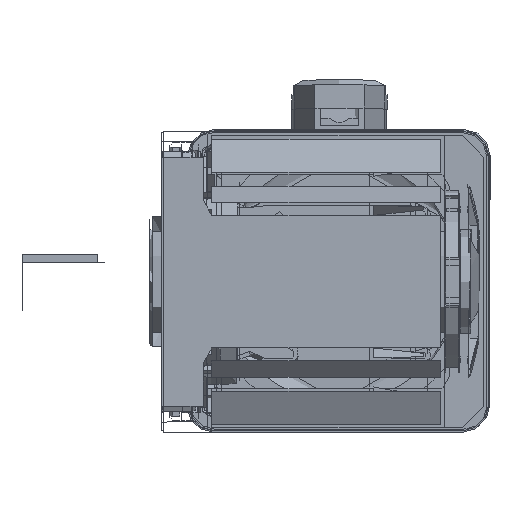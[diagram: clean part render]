
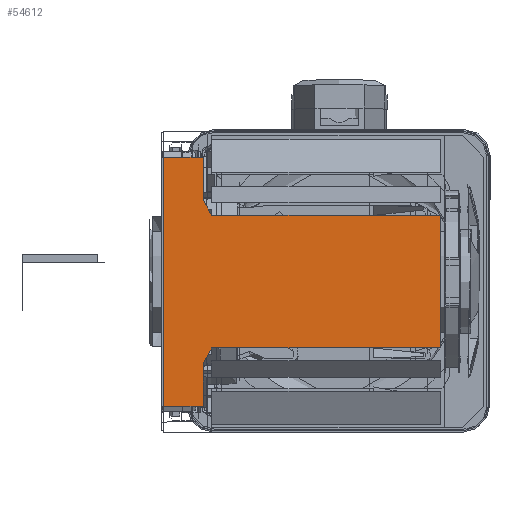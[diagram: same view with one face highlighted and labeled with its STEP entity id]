
A CAD part, left-side view. The second image highlights one B-rep face of the part: STEP entity #54612.
In plain terms, the highlighted planar face has unit normal (-1, 0, 0).
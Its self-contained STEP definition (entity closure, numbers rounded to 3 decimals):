
#1504 = CARTESIAN_POINT ( 'NONE',  ( 2861.881, -819.953, 28.175 ) ) ;
#2658 = LINE ( 'NONE', #40192, #93981 ) ;
#4937 = EDGE_CURVE ( 'NONE', #44634, #77557, #99821, .T. ) ;
#5970 = CARTESIAN_POINT ( 'NONE',  ( 2861.881, -819.503, -26.48 ) ) ;
#6046 = CARTESIAN_POINT ( 'NONE',  ( 2861.881, -737.953, -43.192 ) ) ;
#9437 = VERTEX_POINT ( 'NONE', #16870 ) ;
#9784 = EDGE_CURVE ( 'NONE', #41670, #59751, #30572, .T. ) ;
#10190 = CARTESIAN_POINT ( 'NONE',  ( 2861.881, -833.453, 42.808 ) ) ;
#10706 = CARTESIAN_POINT ( 'NONE',  ( 2861.881, -819.503, 26.096 ) ) ;
#12359 = CARTESIAN_POINT ( 'NONE',  ( 2861.881, -819.953, -28.56 ) ) ;
#14258 = VECTOR ( 'NONE', #53114, 1000. ) ;
#14974 = DIRECTION ( 'NONE',  ( 0., 1., 0. ) ) ;
#15196 = CARTESIAN_POINT ( 'NONE',  ( 2861.881, -819.953, -28.56 ) ) ;
#15553 = CARTESIAN_POINT ( 'NONE',  ( 2861.881, -737.953, -43.192 ) ) ;
#15567 = ORIENTED_EDGE ( 'NONE', *, *, #69451, .F. ) ;
#16870 = CARTESIAN_POINT ( 'NONE',  ( 2861.881, -819.953, 42.808 ) ) ;
#19517 = LINE ( 'NONE', #57073, #50616 ) ;
#19946 = CARTESIAN_POINT ( 'NONE',  ( 2861.881, -818.367, 24.298 ) ) ;
#20086 = LINE ( 'NONE', #57645, #45751 ) ;
#20881 = CARTESIAN_POINT ( 'NONE',  ( 2861.881, -819.953, -43.192 ) ) ;
#23190 = CARTESIAN_POINT ( 'NONE',  ( 2861.881, -819.953, -43.192 ) ) ;
#24489 = FACE_OUTER_BOUND ( 'NONE', #71652, .T. ) ;
#29088 = ORIENTED_EDGE ( 'NONE', *, *, #66233, .F. ) ;
#29183 = CARTESIAN_POINT ( 'NONE',  ( 2861.881, -816.953, 22.698 ) ) ;
#30572 = B_SPLINE_CURVE_WITH_KNOTS ( 'NONE', 3,
 ( #15196, #52763, #90270, #5970, #43501, #81032, #118544, #34277, #71801, #109292 ),
 .UNSPECIFIED., .F., .F.,
 ( 4, 2, 2, 2, 4 ),
 ( 0., 0.25, 0.5, 0.75, 1. ),
 .UNSPECIFIED. ) ;
#31367 = AXIS2_PLACEMENT_3D ( 'NONE', #6046, #43571, #81104 ) ;
#31680 = LINE ( 'NONE', #69211, #103069 ) ;
#32270 = ORIENTED_EDGE ( 'NONE', *, *, #80153, .F. ) ;
#33461 = LINE ( 'NONE', #99252, #86252 ) ;
#34277 = CARTESIAN_POINT ( 'NONE',  ( 2861.881, -817.679, -23.866 ) ) ;
#34917 = VECTOR ( 'NONE', #60742, 1000. ) ;
#38787 = CARTESIAN_POINT ( 'NONE',  ( 2861.881, -737.953, -23.082 ) ) ;
#40168 = B_SPLINE_CURVE_WITH_KNOTS ( 'NONE', 3,
 ( #29183, #66736, #104228, #19946, #57505, #95011, #10706, #48257, #85766, #1504 ),
 .UNSPECIFIED., .F., .F.,
 ( 4, 2, 2, 2, 4 ),
 ( 0., 0.25, 0.5, 0.75, 1. ),
 .UNSPECIFIED. ) ;
#40192 = CARTESIAN_POINT ( 'NONE',  ( 2861.881, 5999180.047, -43.192 ) ) ;
#40575 = VERTEX_POINT ( 'NONE', #81343 ) ;
#41670 = VERTEX_POINT ( 'NONE', #12359 ) ;
#43289 = CARTESIAN_POINT ( 'NONE',  ( 2861.881, -833.453, -43.192 ) ) ;
#43501 = CARTESIAN_POINT ( 'NONE',  ( 2861.881, -819.262, -26.008 ) ) ;
#43571 = DIRECTION ( 'NONE',  ( 1., 0., 0. ) ) ;
#44634 = VERTEX_POINT ( 'NONE', #38787 ) ;
#45016 = EDGE_CURVE ( 'NONE', #9437, #101956, #31680, .T. ) ;
#45154 = ORIENTED_EDGE ( 'NONE', *, *, #48909, .F. ) ;
#45751 = VECTOR ( 'NONE', #95149, 1000. ) ;
#48257 = CARTESIAN_POINT ( 'NONE',  ( 2861.881, -819.852, 27.112 ) ) ;
#48601 = LINE ( 'NONE', #20881, #121530 ) ;
#48694 = ORIENTED_EDGE ( 'NONE', *, *, #67899, .F. ) ;
#48909 = EDGE_CURVE ( 'NONE', #59751, #44634, #33461, .T. ) ;
#48923 = VERTEX_POINT ( 'NONE', #43289 ) ;
#50616 = VECTOR ( 'NONE', #94572, 1000. ) ;
#50732 = ORIENTED_EDGE ( 'NONE', *, *, #95549, .T. ) ;
#50898 = LINE ( 'NONE', #23190, #34917 ) ;
#52763 = CARTESIAN_POINT ( 'NONE',  ( 2861.881, -819.953, -28.02 ) ) ;
#53114 = DIRECTION ( 'NONE',  ( 0., 0., 1. ) ) ;
#54612 = ADVANCED_FACE ( 'NONE', ( #24489 ), #90341, .F. ) ;
#57073 = CARTESIAN_POINT ( 'NONE',  ( 2861.881, -737.953, 22.698 ) ) ;
#57505 = CARTESIAN_POINT ( 'NONE',  ( 2861.881, -818.694, 24.724 ) ) ;
#57645 = CARTESIAN_POINT ( 'NONE',  ( 2861.881, -833.453, 51.808 ) ) ;
#58454 = DIRECTION ( 'NONE',  ( 0., 0., 1. ) ) ;
#59751 = VERTEX_POINT ( 'NONE', #61359 ) ;
#60742 = DIRECTION ( 'NONE',  ( 0., 0., 1. ) ) ;
#61359 = CARTESIAN_POINT ( 'NONE',  ( 2861.881, -816.953, -23.082 ) ) ;
#66233 = EDGE_CURVE ( 'NONE', #77557, #76996, #19517, .T. ) ;
#66736 = CARTESIAN_POINT ( 'NONE',  ( 2861.881, -817.316, 23.09 ) ) ;
#67899 = EDGE_CURVE ( 'NONE', #76996, #106076, #40168, .T. ) ;
#69211 = CARTESIAN_POINT ( 'NONE',  ( 2861.881, 5999180.047, 42.808 ) ) ;
#69451 = EDGE_CURVE ( 'NONE', #106076, #9437, #48601, .T. ) ;
#71652 = EDGE_LOOP ( 'NONE', ( #32270, #111684, #50732, #98733, #15567, #48694, #29088, #100704, #45154, #120571 ) ) ;
#71801 = CARTESIAN_POINT ( 'NONE',  ( 2861.881, -817.316, -23.474 ) ) ;
#73816 = CARTESIAN_POINT ( 'NONE',  ( 2861.881, -737.953, 22.698 ) ) ;
#74608 = CARTESIAN_POINT ( 'NONE',  ( 2861.881, -819.953, 28.175 ) ) ;
#76996 = VERTEX_POINT ( 'NONE', #77744 ) ;
#77557 = VERTEX_POINT ( 'NONE', #73816 ) ;
#77710 = DIRECTION ( 'NONE',  ( 0., 1., 0. ) ) ;
#77744 = CARTESIAN_POINT ( 'NONE',  ( 2861.881, -816.953, 22.698 ) ) ;
#80153 = EDGE_CURVE ( 'NONE', #40575, #41670, #50898, .T. ) ;
#81032 = CARTESIAN_POINT ( 'NONE',  ( 2861.881, -818.695, -25.108 ) ) ;
#81104 = DIRECTION ( 'NONE',  ( 0., 0., -1. ) ) ;
#81343 = CARTESIAN_POINT ( 'NONE',  ( 2861.881, -819.953, -43.192 ) ) ;
#85766 = CARTESIAN_POINT ( 'NONE',  ( 2861.881, -819.953, 27.636 ) ) ;
#86252 = VECTOR ( 'NONE', #14974, 1000. ) ;
#90270 = CARTESIAN_POINT ( 'NONE',  ( 2861.881, -819.852, -27.496 ) ) ;
#90341 = PLANE ( 'NONE',  #31367 ) ;
#93981 = VECTOR ( 'NONE', #77710, 1000. ) ;
#94572 = DIRECTION ( 'NONE',  ( 0., -1., 0. ) ) ;
#95011 = CARTESIAN_POINT ( 'NONE',  ( 2861.881, -819.262, 25.623 ) ) ;
#95149 = DIRECTION ( 'NONE',  ( 0., 0., 1. ) ) ;
#95549 = EDGE_CURVE ( 'NONE', #48923, #101956, #20086, .T. ) ;
#98733 = ORIENTED_EDGE ( 'NONE', *, *, #45016, .F. ) ;
#99252 = CARTESIAN_POINT ( 'NONE',  ( 2861.881, -737.953, -23.082 ) ) ;
#99821 = LINE ( 'NONE', #15553, #14258 ) ;
#100704 = ORIENTED_EDGE ( 'NONE', *, *, #4937, .F. ) ;
#101956 = VERTEX_POINT ( 'NONE', #10190 ) ;
#103069 = VECTOR ( 'NONE', #106706, 1000. ) ;
#104228 = CARTESIAN_POINT ( 'NONE',  ( 2861.881, -817.678, 23.482 ) ) ;
#106076 = VERTEX_POINT ( 'NONE', #74608 ) ;
#106706 = DIRECTION ( 'NONE',  ( 0., -1., 0. ) ) ;
#109292 = CARTESIAN_POINT ( 'NONE',  ( 2861.881, -816.953, -23.082 ) ) ;
#111684 = ORIENTED_EDGE ( 'NONE', *, *, #112839, .F. ) ;
#112839 = EDGE_CURVE ( 'NONE', #48923, #40575, #2658, .T. ) ;
#118544 = CARTESIAN_POINT ( 'NONE',  ( 2861.881, -818.367, -24.682 ) ) ;
#120571 = ORIENTED_EDGE ( 'NONE', *, *, #9784, .F. ) ;
#121530 = VECTOR ( 'NONE', #58454, 1000. ) ;
